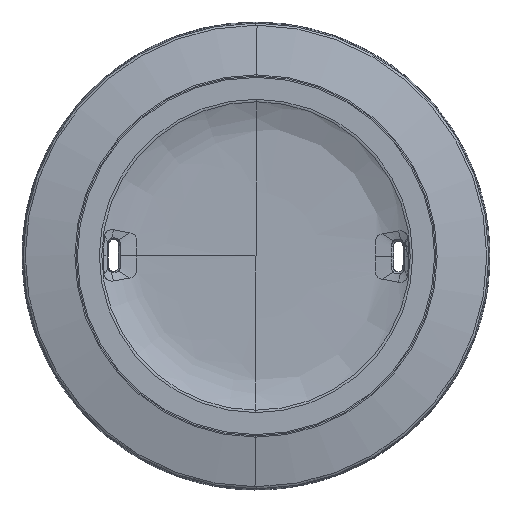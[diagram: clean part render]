
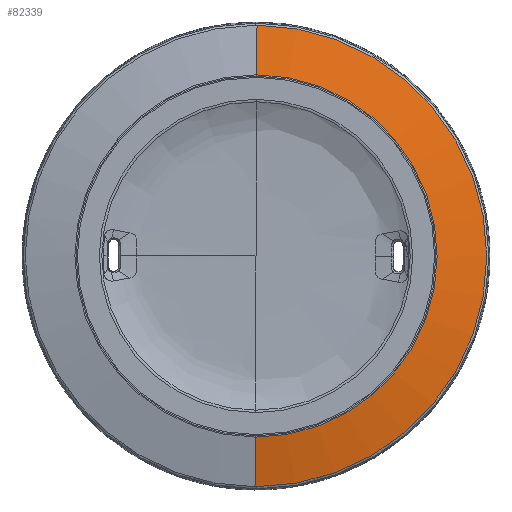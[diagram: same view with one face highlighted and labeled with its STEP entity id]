
A CAD part, top view. The second image highlights one B-rep face of the part: STEP entity #82339.
In plain terms, the highlighted face is a revolution surface.
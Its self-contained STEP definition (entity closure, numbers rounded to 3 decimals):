
#34471=CARTESIAN_POINT('',(1185.771,-124.659,
3.044));
#34472=DIRECTION('',(0.,0.,-1.));
#34473=DIRECTION('',(0.004,1.,0.));
#34474=AXIS2_PLACEMENT_3D('',#34471,#34472,#34473);
#34479=CARTESIAN_POINT('',(1185.771,-124.659,
3.044));
#34480=DIRECTION('',(0.,0.,-1.));
#34481=DIRECTION('',(0.003,-1.,0.));
#34482=AXIS2_PLACEMENT_3D('',#34479,#34480,#34481);
#34487=CARTESIAN_POINT('',(1185.771,-124.659,
7.369));
#34488=DIRECTION('',(0.,0.,1.));
#34489=DIRECTION('',(-0.004,-1.,0.));
#34490=AXIS2_PLACEMENT_3D('',#34487,#34488,#34489);
#34495=CARTESIAN_POINT('',(1185.457,-196.35,
7.369));
#34496=CARTESIAN_POINT('',(1185.43,-202.714,
6.366));
#34497=CARTESIAN_POINT('',(1185.401,-209.257,
4.925));
#34498=CARTESIAN_POINT('',(1185.372,-215.978,
3.044));
#34519=CARTESIAN_POINT('',(1186.17,-33.34,
3.044));
#34520=CARTESIAN_POINT('',(1186.141,-40.061,
4.925));
#34521=CARTESIAN_POINT('',(1186.112,-46.604,
6.366));
#34522=CARTESIAN_POINT('',(1186.084,-52.969,
7.369));
#39063=CARTESIAN_POINT('',(1186.17,-33.34,
3.044));
#39065=VERTEX_POINT('',#39063);
#39066=CARTESIAN_POINT('',(1186.039,-215.979,
3.044));
#39067=VERTEX_POINT('',#39066);
#39068=VERTEX_POINT('',#34495);
#39069=VERTEX_POINT('',#34498);
#39070=VERTEX_POINT('',#34522);
#82317=CARTESIAN_POINT('',(1185.458,-196.138,
7.402));
#82318=CARTESIAN_POINT('',(1185.458,-196.208,
7.391));
#82319=CARTESIAN_POINT('',(1185.43,-202.642,
6.382));
#82320=CARTESIAN_POINT('',(1185.401,-209.324,
4.91));
#82321=CARTESIAN_POINT('',(1185.371,-216.116,
3.006));
#82322=CARTESIAN_POINT('',(1185.371,-216.185,
2.986));
#82324=CARTESIAN_POINT('',(1185.771,-124.659,
5.063));
#82325=DIRECTION('',(0.,0.,-1.));
#82326=AXIS1_PLACEMENT('',#82324,#82325);
#82327=SURFACE_OF_REVOLUTION('',#82323,#82326);
#82329=ORIENTED_EDGE('',*,*,#82328,.F.);
#82331=ORIENTED_EDGE('',*,*,#82330,.T.);
#82333=ORIENTED_EDGE('',*,*,#82332,.T.);
#82335=ORIENTED_EDGE('',*,*,#82334,.F.);
#82336=ORIENTED_EDGE('',*,*,#82300,.T.);
#82337=EDGE_LOOP('',(#82329,#82331,#82333,#82335,#82336));
#82338=FACE_OUTER_BOUND('',#82337,.F.);
#82339=ADVANCED_FACE('',(#82338),#82327,.T.);
#34475=CIRCLE('',#34474,91.32);
#34483=CIRCLE('',#34482,91.32);
#34491=CIRCLE('',#34490,71.691);
#34499=B_SPLINE_CURVE_WITH_KNOTS('',3,(#34495,#34496,#34497,#34498),
.UNSPECIFIED.,.F.,.F.,(4,4),(0.,1.),.UNSPECIFIED.);
#34523=B_SPLINE_CURVE_WITH_KNOTS('',3,(#34519,#34520,#34521,#34522),
.UNSPECIFIED.,.F.,.F.,(4,4),(0.,1.),.UNSPECIFIED.);
#82300=EDGE_CURVE('',#39068,#39070,#34491,.T.);
#82323=B_SPLINE_CURVE_WITH_KNOTS('',3,(#82317,#82318,#82319,#82320,#82321,
#82322),.UNSPECIFIED.,.F.,.F.,(4,1,1,4),(0.,0.011,
0.99,1.),.UNSPECIFIED.);
#82328=EDGE_CURVE('',#39065,#39070,#34523,.T.);
#82330=EDGE_CURVE('',#39065,#39067,#34475,.T.);
#82332=EDGE_CURVE('',#39067,#39069,#34483,.T.);
#82334=EDGE_CURVE('',#39068,#39069,#34499,.T.);
